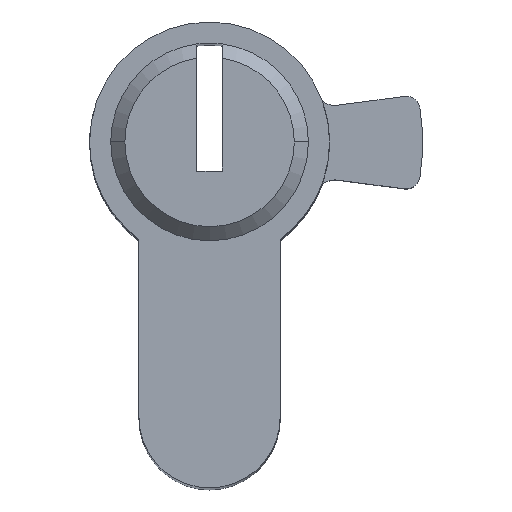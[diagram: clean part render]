
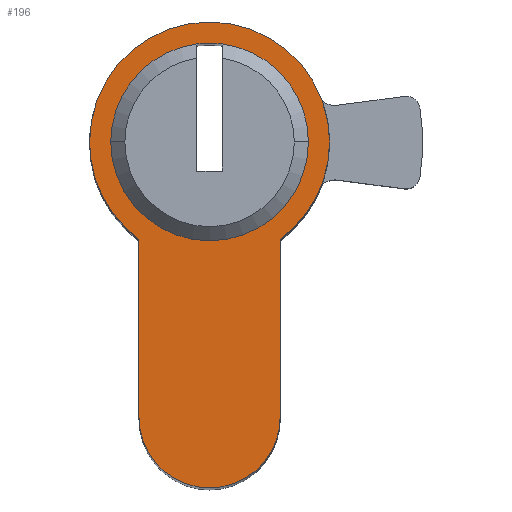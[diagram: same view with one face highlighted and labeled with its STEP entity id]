
A CAD part, top view. The second image highlights one B-rep face of the part: STEP entity #196.
In plain terms, the highlighted planar face has unit normal (0, 0, 1).
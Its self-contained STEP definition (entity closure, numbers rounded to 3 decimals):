
#3 = DIRECTION ( 'NONE',  ( 1., 0., 0. ) ) ;
#12 = DIRECTION ( 'NONE',  ( 0., 0., 1. ) ) ;
#65 = VERTEX_POINT ( 'NONE', #929 ) ;
#73 = AXIS2_PLACEMENT_3D ( 'NONE', #296, #1489, #3 ) ;
#79 = CARTESIAN_POINT ( 'NONE',  ( -5., -6.874, 30. ) ) ;
#104 = DIRECTION ( 'NONE',  ( 0., 0., 1. ) ) ;
#152 = CARTESIAN_POINT ( 'NONE',  ( -5., -6.874, 30. ) ) ;
#159 = CIRCLE ( 'NONE', #501, 8.5 ) ;
#186 = DIRECTION ( 'NONE',  ( 0., 0., 1. ) ) ;
#196 = ADVANCED_FACE ( 'NONE', ( #432, #1247 ), #1142, .T. ) ;
#237 = AXIS2_PLACEMENT_3D ( 'NONE', #1543, #719, #433 ) ;
#246 = ORIENTED_EDGE ( 'NONE', *, *, #1597, .F. ) ;
#253 = CARTESIAN_POINT ( 'NONE',  ( -8.5, 0., 30. ) ) ;
#266 = CARTESIAN_POINT ( 'NONE',  ( 0., 0., 30. ) ) ;
#278 = DIRECTION ( 'NONE',  ( 0., 0., 1. ) ) ;
#287 = AXIS2_PLACEMENT_3D ( 'NONE', #546, #12, #1607 ) ;
#296 = CARTESIAN_POINT ( 'NONE',  ( 0., 0., 30. ) ) ;
#302 = ORIENTED_EDGE ( 'NONE', *, *, #411, .T. ) ;
#327 = ORIENTED_EDGE ( 'NONE', *, *, #384, .T. ) ;
#366 = AXIS2_PLACEMENT_3D ( 'NONE', #1061, #278, #919 ) ;
#384 = EDGE_CURVE ( 'NONE', #595, #1148, #1580, .T. ) ;
#411 = EDGE_CURVE ( 'NONE', #1556, #595, #648, .T. ) ;
#432 = FACE_BOUND ( 'NONE', #1622, .T. ) ;
#433 = DIRECTION ( 'NONE',  ( 1., 0., 0. ) ) ;
#456 = CIRCLE ( 'NONE', #287, 8.5 ) ;
#477 = CARTESIAN_POINT ( 'NONE',  ( -0.9, 6.942, 30. ) ) ;
#480 = AXIS2_PLACEMENT_3D ( 'NONE', #1446, #1433, #1151 ) ;
#482 = EDGE_CURVE ( 'NONE', #583, #1556, #1354, .T. ) ;
#484 = CARTESIAN_POINT ( 'NONE',  ( 5., -19.5, 30. ) ) ;
#501 = AXIS2_PLACEMENT_3D ( 'NONE', #1299, #104, #920 ) ;
#539 = EDGE_CURVE ( 'NONE', #1340, #65, #1322, .T. ) ;
#540 = CIRCLE ( 'NONE', #1077, 8.5 ) ;
#546 = CARTESIAN_POINT ( 'NONE',  ( 0., 0., 30. ) ) ;
#547 = EDGE_CURVE ( 'NONE', #1518, #958, #1525, .T. ) ;
#576 = CARTESIAN_POINT ( 'NONE',  ( 0., 0., 30. ) ) ;
#583 = VERTEX_POINT ( 'NONE', #79 ) ;
#595 = VERTEX_POINT ( 'NONE', #891 ) ;
#608 = CIRCLE ( 'NONE', #73, 7. ) ;
#648 = CIRCLE ( 'NONE', #480, 5. ) ;
#706 = VERTEX_POINT ( 'NONE', #253 ) ;
#719 = DIRECTION ( 'NONE',  ( 0., 0., 1. ) ) ;
#756 = CARTESIAN_POINT ( 'NONE',  ( 0.9, 6.942, 30. ) ) ;
#761 = ORIENTED_EDGE ( 'NONE', *, *, #539, .F. ) ;
#770 = ORIENTED_EDGE ( 'NONE', *, *, #1519, .T. ) ;
#791 = ORIENTED_EDGE ( 'NONE', *, *, #1245, .T. ) ;
#821 = AXIS2_PLACEMENT_3D ( 'NONE', #266, #1598, #1210 ) ;
#827 = ORIENTED_EDGE ( 'NONE', *, *, #1313, .F. ) ;
#862 = CARTESIAN_POINT ( 'NONE',  ( 0., 0., 30. ) ) ;
#880 = CARTESIAN_POINT ( 'NONE',  ( -7., 0., 30. ) ) ;
#891 = CARTESIAN_POINT ( 'NONE',  ( 5., -19.5, 30. ) ) ;
#919 = DIRECTION ( 'NONE',  ( 1., 0., 0. ) ) ;
#920 = DIRECTION ( 'NONE',  ( 1., 0., 0. ) ) ;
#929 = CARTESIAN_POINT ( 'NONE',  ( 7., 0., 30. ) ) ;
#958 = VERTEX_POINT ( 'NONE', #477 ) ;
#1061 = CARTESIAN_POINT ( 'NONE',  ( 0., 0., 30. ) ) ;
#1071 = CARTESIAN_POINT ( 'NONE',  ( -5., -19.5, 30. ) ) ;
#1077 = AXIS2_PLACEMENT_3D ( 'NONE', #862, #186, #1398 ) ;
#1142 = PLANE ( 'NONE',  #1208 ) ;
#1148 = VERTEX_POINT ( 'NONE', #1459 ) ;
#1151 = DIRECTION ( 'NONE',  ( 1., 0., 0. ) ) ;
#1156 = VECTOR ( 'NONE', #1417, 1000. ) ;
#1208 = AXIS2_PLACEMENT_3D ( 'NONE', #576, #1389, #1397 ) ;
#1210 = DIRECTION ( 'NONE',  ( 1., 0., 0. ) ) ;
#1228 = VERTEX_POINT ( 'NONE', #1343 ) ;
#1245 = EDGE_CURVE ( 'NONE', #1148, #1228, #456, .T. ) ;
#1247 = FACE_OUTER_BOUND ( 'NONE', #1452, .T. ) ;
#1299 = CARTESIAN_POINT ( 'NONE',  ( 0., 0., 30. ) ) ;
#1313 = EDGE_CURVE ( 'NONE', #958, #1340, #1586, .T. ) ;
#1320 = EDGE_CURVE ( 'NONE', #1228, #706, #540, .T. ) ;
#1322 = CIRCLE ( 'NONE', #366, 7. ) ;
#1340 = VERTEX_POINT ( 'NONE', #880 ) ;
#1343 = CARTESIAN_POINT ( 'NONE',  ( 8.5, 0., 30. ) ) ;
#1354 = LINE ( 'NONE', #152, #1471 ) ;
#1389 = DIRECTION ( 'NONE',  ( 0., 0., 1. ) ) ;
#1397 = DIRECTION ( 'NONE',  ( 1., 0., 0. ) ) ;
#1398 = DIRECTION ( 'NONE',  ( 1., 0., 0. ) ) ;
#1400 = ORIENTED_EDGE ( 'NONE', *, *, #1320, .T. ) ;
#1417 = DIRECTION ( 'NONE',  ( 0., 1., 0. ) ) ;
#1433 = DIRECTION ( 'NONE',  ( 0., 0., 1. ) ) ;
#1446 = CARTESIAN_POINT ( 'NONE',  ( 0., -19.5, 30. ) ) ;
#1452 = EDGE_LOOP ( 'NONE', ( #791, #1400, #770, #1640, #302, #327 ) ) ;
#1459 = CARTESIAN_POINT ( 'NONE',  ( 5., -6.874, 30. ) ) ;
#1462 = DIRECTION ( 'NONE',  ( 0., -1., 0. ) ) ;
#1471 = VECTOR ( 'NONE', #1462, 1000. ) ;
#1482 = ORIENTED_EDGE ( 'NONE', *, *, #547, .F. ) ;
#1489 = DIRECTION ( 'NONE',  ( 0., 0., 1. ) ) ;
#1518 = VERTEX_POINT ( 'NONE', #756 ) ;
#1519 = EDGE_CURVE ( 'NONE', #706, #583, #159, .T. ) ;
#1525 = CIRCLE ( 'NONE', #821, 7. ) ;
#1543 = CARTESIAN_POINT ( 'NONE',  ( 0., 0., 30. ) ) ;
#1556 = VERTEX_POINT ( 'NONE', #1071 ) ;
#1580 = LINE ( 'NONE', #484, #1156 ) ;
#1586 = CIRCLE ( 'NONE', #237, 7. ) ;
#1597 = EDGE_CURVE ( 'NONE', #65, #1518, #608, .T. ) ;
#1598 = DIRECTION ( 'NONE',  ( 0., 0., 1. ) ) ;
#1607 = DIRECTION ( 'NONE',  ( 1., 0., 0. ) ) ;
#1622 = EDGE_LOOP ( 'NONE', ( #1482, #246, #761, #827 ) ) ;
#1640 = ORIENTED_EDGE ( 'NONE', *, *, #482, .T. ) ;
